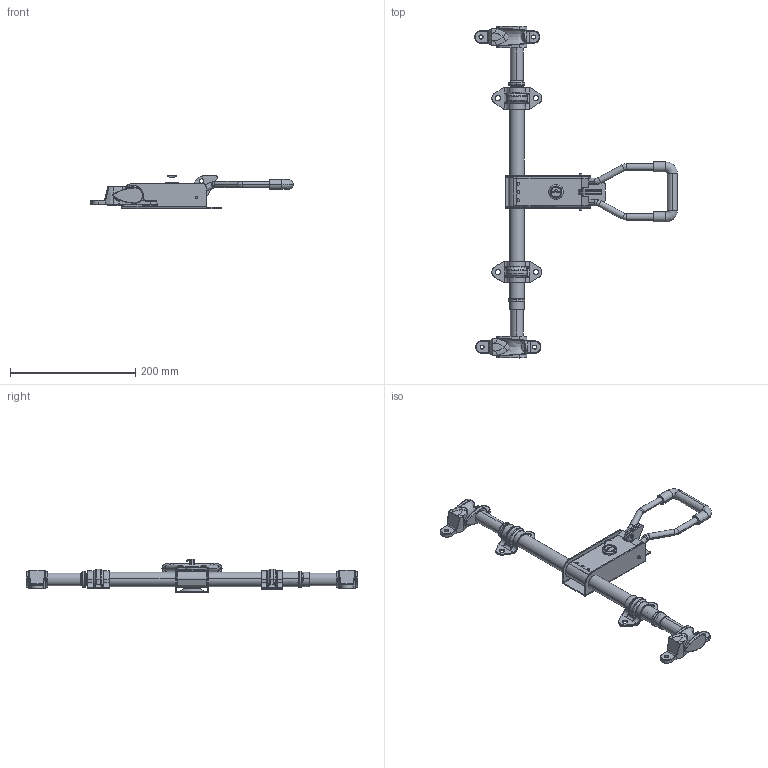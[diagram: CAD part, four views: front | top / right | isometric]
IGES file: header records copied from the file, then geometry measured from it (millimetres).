
Start section: SolidWorks IGES file using analytic representation for surfaces
Global section: file name: 2HD:\尚坤工业图纸\SK1--门锁系列\SK1-011101S\SK1-011101S+配件.IGS; native system: SolidWorks 2015; preprocessor: SolidWorks 2015; author: admin; date: 181101.114827; units: millimetre
Bounding box: 323.84 x 531 x 53 mm (x, y, z)
Surface area: 197567.9 mm2 (no closed solid volume)
Topology: 0 solids, 0 shells, 986 faces, 10842 edges, 10819 vertices
Faces by surface type: bspline 558, revolution 428
